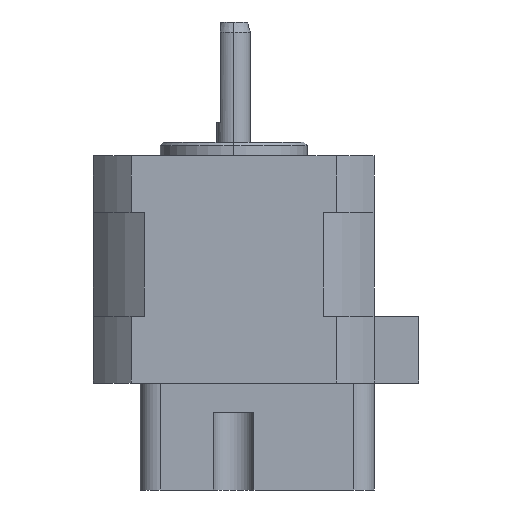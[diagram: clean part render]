
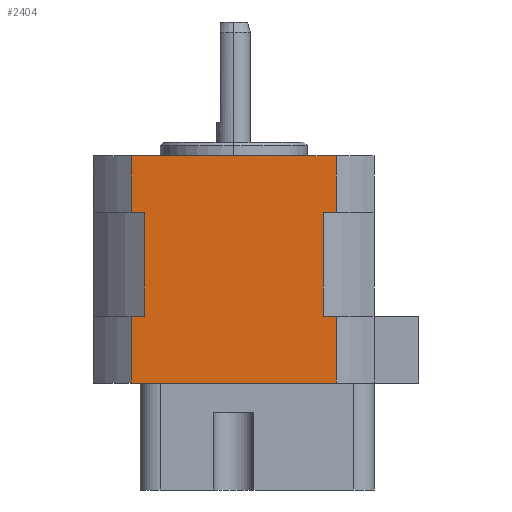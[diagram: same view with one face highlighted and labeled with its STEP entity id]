
A CAD part, left-side view. The second image highlights one B-rep face of the part: STEP entity #2404.
In plain terms, the highlighted planar face has unit normal (-1, 0, 0).
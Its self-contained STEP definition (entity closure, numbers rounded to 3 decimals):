
#60 = VERTEX_POINT ( 'NONE', #1704 ) ;
#102 = VERTEX_POINT ( 'NONE', #2510 ) ;
#103 = AXIS2_PLACEMENT_3D ( 'NONE', #1643, #847, #2226 ) ;
#108 = CARTESIAN_POINT ( 'NONE',  ( -21., 13.379, -26. ) ) ;
#134 = VECTOR ( 'NONE', #356, 1000. ) ;
#149 = VERTEX_POINT ( 'NONE', #2330 ) ;
#185 = CARTESIAN_POINT ( 'NONE',  ( -21., -13.379, -26. ) ) ;
#186 = ORIENTED_EDGE ( 'NONE', *, *, #568, .T. ) ;
#201 = VECTOR ( 'NONE', #1899, 1000. ) ;
#212 = LINE ( 'NONE', #2255, #1587 ) ;
#242 = LINE ( 'NONE', #1144, #2259 ) ;
#276 = ORIENTED_EDGE ( 'NONE', *, *, #397, .T. ) ;
#308 = ORIENTED_EDGE ( 'NONE', *, *, #1511, .T. ) ;
#356 = DIRECTION ( 'NONE',  ( 0., 1., 0. ) ) ;
#395 = VERTEX_POINT ( 'NONE', #1264 ) ;
#397 = EDGE_CURVE ( 'NONE', #149, #1751, #212, .T. ) ;
#433 = ORIENTED_EDGE ( 'NONE', *, *, #1675, .F. ) ;
#440 = VECTOR ( 'NONE', #2398, 1000. ) ;
#470 = ORIENTED_EDGE ( 'NONE', *, *, #2383, .F. ) ;
#475 = VERTEX_POINT ( 'NONE', #2428 ) ;
#521 = EDGE_CURVE ( 'NONE', #60, #1918, #2227, .T. ) ;
#538 = VECTOR ( 'NONE', #1348, 1000. ) ;
#556 = DIRECTION ( 'NONE',  ( 0., 0., 1. ) ) ;
#568 = EDGE_CURVE ( 'NONE', #475, #395, #1745, .T. ) ;
#629 = CARTESIAN_POINT ( 'NONE',  ( -21., 13.379, -10.5 ) ) ;
#641 = EDGE_CURVE ( 'NONE', #1751, #760, #242, .T. ) ;
#643 = EDGE_LOOP ( 'NONE', ( #470, #1305, #2267, #186, #1409, #1633, #276, #1051, #308, #2519, #433, #982 ) ) ;
#656 = DIRECTION ( 'NONE',  ( 0., 0., 1. ) ) ;
#676 = DIRECTION ( 'NONE',  ( 0., 0., 1. ) ) ;
#736 = CARTESIAN_POINT ( 'NONE',  ( -21., 15.33, -36. ) ) ;
#740 = VECTOR ( 'NONE', #556, 1000. ) ;
#748 = DIRECTION ( 'NONE',  ( 0., 1., 0. ) ) ;
#760 = VERTEX_POINT ( 'NONE', #185 ) ;
#761 = CARTESIAN_POINT ( 'NONE',  ( -21., -15.33, -36. ) ) ;
#800 = FACE_OUTER_BOUND ( 'NONE', #643, .T. ) ;
#830 = LINE ( 'NONE', #2036, #865 ) ;
#833 = DIRECTION ( 'NONE',  ( 0., 0., 1. ) ) ;
#847 = DIRECTION ( 'NONE',  ( 1., 0., 0. ) ) ;
#865 = VECTOR ( 'NONE', #656, 1000. ) ;
#899 = VECTOR ( 'NONE', #2292, 1000. ) ;
#906 = DIRECTION ( 'NONE',  ( 0., 1., 0. ) ) ;
#982 = ORIENTED_EDGE ( 'NONE', *, *, #1788, .T. ) ;
#1046 = VERTEX_POINT ( 'NONE', #1670 ) ;
#1051 = ORIENTED_EDGE ( 'NONE', *, *, #641, .T. ) ;
#1144 = CARTESIAN_POINT ( 'NONE',  ( -21., 13.379, -26. ) ) ;
#1177 = LINE ( 'NONE', #2022, #2440 ) ;
#1203 = LINE ( 'NONE', #736, #201 ) ;
#1264 = CARTESIAN_POINT ( 'NONE',  ( -21., 15.33, -26. ) ) ;
#1265 = LINE ( 'NONE', #2334, #740 ) ;
#1275 = VECTOR ( 'NONE', #906, 1000. ) ;
#1305 = ORIENTED_EDGE ( 'NONE', *, *, #2049, .F. ) ;
#1348 = DIRECTION ( 'NONE',  ( 0., 0., -1. ) ) ;
#1359 = CARTESIAN_POINT ( 'NONE',  ( -21., 21., -2. ) ) ;
#1409 = ORIENTED_EDGE ( 'NONE', *, *, #2483, .F. ) ;
#1451 = CARTESIAN_POINT ( 'NONE',  ( -21., 15.33, -2. ) ) ;
#1484 = LINE ( 'NONE', #761, #538 ) ;
#1506 = VERTEX_POINT ( 'NONE', #629 ) ;
#1511 = EDGE_CURVE ( 'NONE', #760, #1918, #1177, .T. ) ;
#1547 = LINE ( 'NONE', #1730, #134 ) ;
#1587 = VECTOR ( 'NONE', #676, 1000. ) ;
#1633 = ORIENTED_EDGE ( 'NONE', *, *, #1840, .F. ) ;
#1639 = VERTEX_POINT ( 'NONE', #1451 ) ;
#1643 = CARTESIAN_POINT ( 'NONE',  ( -21., 21., -10.5 ) ) ;
#1670 = CARTESIAN_POINT ( 'NONE',  ( -21., 15.33, -10.5 ) ) ;
#1675 = EDGE_CURVE ( 'NONE', #102, #60, #1484, .T. ) ;
#1704 = CARTESIAN_POINT ( 'NONE',  ( -21., -15.33, -10.5 ) ) ;
#1710 = CARTESIAN_POINT ( 'NONE',  ( -21., 21., -10.5 ) ) ;
#1730 = CARTESIAN_POINT ( 'NONE',  ( -21., 21., -10.5 ) ) ;
#1745 = LINE ( 'NONE', #108, #1275 ) ;
#1751 = VERTEX_POINT ( 'NONE', #1764 ) ;
#1764 = CARTESIAN_POINT ( 'NONE',  ( -21., -15.33, -26. ) ) ;
#1788 = EDGE_CURVE ( 'NONE', #102, #1639, #2163, .T. ) ;
#1808 = PLANE ( 'NONE',  #103 ) ;
#1840 = EDGE_CURVE ( 'NONE', #149, #1974, #2344, .T. ) ;
#1899 = DIRECTION ( 'NONE',  ( 0., 0., 1. ) ) ;
#1918 = VERTEX_POINT ( 'NONE', #2043 ) ;
#1974 = VERTEX_POINT ( 'NONE', #2052 ) ;
#2022 = CARTESIAN_POINT ( 'NONE',  ( -21., -13.379, -26. ) ) ;
#2036 = CARTESIAN_POINT ( 'NONE',  ( -21., 15.33, -36. ) ) ;
#2043 = CARTESIAN_POINT ( 'NONE',  ( -21., -13.379, -10.5 ) ) ;
#2049 = EDGE_CURVE ( 'NONE', #1506, #1046, #1547, .T. ) ;
#2052 = CARTESIAN_POINT ( 'NONE',  ( -21., 15.33, -36. ) ) ;
#2163 = LINE ( 'NONE', #1359, #2473 ) ;
#2196 = CARTESIAN_POINT ( 'NONE',  ( -21., -15.33, -36. ) ) ;
#2216 = EDGE_CURVE ( 'NONE', #475, #1506, #1265, .T. ) ;
#2226 = DIRECTION ( 'NONE',  ( 0., 1., 0. ) ) ;
#2227 = LINE ( 'NONE', #1710, #899 ) ;
#2255 = CARTESIAN_POINT ( 'NONE',  ( -21., -15.33, -36. ) ) ;
#2259 = VECTOR ( 'NONE', #748, 1000. ) ;
#2267 = ORIENTED_EDGE ( 'NONE', *, *, #2216, .F. ) ;
#2292 = DIRECTION ( 'NONE',  ( 0., 1., 0. ) ) ;
#2330 = CARTESIAN_POINT ( 'NONE',  ( -21., -15.33, -36. ) ) ;
#2334 = CARTESIAN_POINT ( 'NONE',  ( -21., 13.379, -26. ) ) ;
#2344 = LINE ( 'NONE', #2196, #440 ) ;
#2383 = EDGE_CURVE ( 'NONE', #1046, #1639, #830, .T. ) ;
#2398 = DIRECTION ( 'NONE',  ( 0., 1., 0. ) ) ;
#2404 = ADVANCED_FACE ( 'NONE', ( #800 ), #1808, .F. ) ;
#2428 = CARTESIAN_POINT ( 'NONE',  ( -21., 13.379, -26. ) ) ;
#2440 = VECTOR ( 'NONE', #833, 1000. ) ;
#2473 = VECTOR ( 'NONE', #2516, 1000. ) ;
#2483 = EDGE_CURVE ( 'NONE', #1974, #395, #1203, .T. ) ;
#2510 = CARTESIAN_POINT ( 'NONE',  ( -21., -15.33, -2. ) ) ;
#2516 = DIRECTION ( 'NONE',  ( 0., 1., 0. ) ) ;
#2519 = ORIENTED_EDGE ( 'NONE', *, *, #521, .F. ) ;
